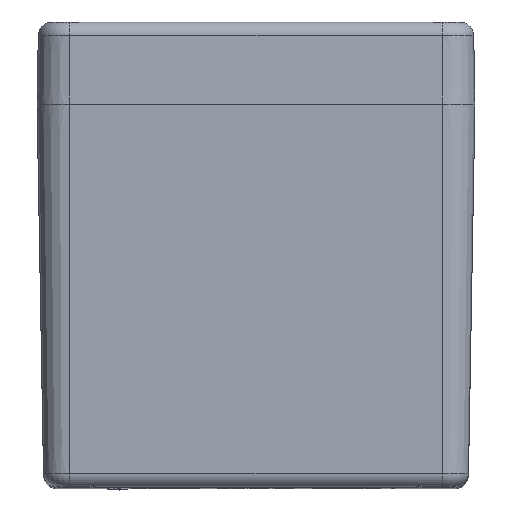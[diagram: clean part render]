
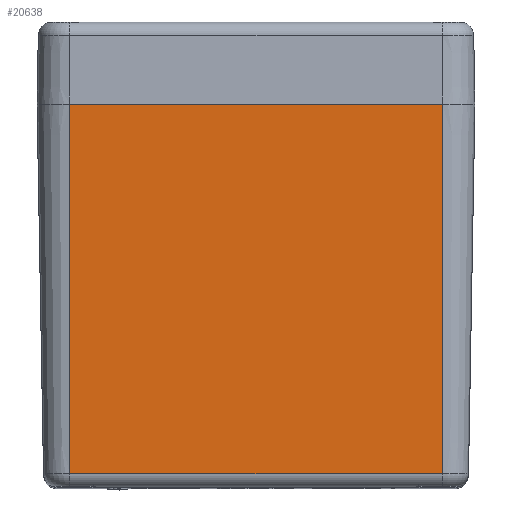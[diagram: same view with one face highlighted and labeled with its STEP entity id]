
A CAD part, top view. The second image highlights one B-rep face of the part: STEP entity #20638.
In plain terms, the highlighted planar face has unit normal (0, -0.018, 1).
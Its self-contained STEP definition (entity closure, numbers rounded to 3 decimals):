
#73 = CARTESIAN_POINT ( 'NONE',  ( -34., 0., 80. ) ) ;
#316 = CARTESIAN_POINT ( 'NONE',  ( 34., -67.544, 78.821 ) ) ;
#331 = CARTESIAN_POINT ( 'NONE',  ( -34., 0., 80. ) ) ;
#1621 = VERTEX_POINT ( 'NONE', #316 ) ;
#2334 = DIRECTION ( 'NONE',  ( 0., -0.017, 1. ) ) ;
#4482 = LINE ( 'NONE', #18375, #28518 ) ;
#5194 = DIRECTION ( 'NONE',  ( 1., 0., 0. ) ) ;
#5269 = EDGE_CURVE ( 'NONE', #23691, #27701, #9554, .T. ) ;
#5312 = ORIENTED_EDGE ( 'NONE', *, *, #5269, .F. ) ;
#6623 = EDGE_LOOP ( 'NONE', ( #14979, #11589, #8421, #5312 ) ) ;
#8421 = ORIENTED_EDGE ( 'NONE', *, *, #17261, .T. ) ;
#8520 = CARTESIAN_POINT ( 'NONE',  ( -34., -67.544, 78.821 ) ) ;
#9455 = LINE ( 'NONE', #331, #16721 ) ;
#9554 = LINE ( 'NONE', #16419, #20547 ) ;
#10085 = EDGE_CURVE ( 'NONE', #14459, #1621, #4482, .T. ) ;
#11589 = ORIENTED_EDGE ( 'NONE', *, *, #10085, .T. ) ;
#11659 = EDGE_CURVE ( 'NONE', #14459, #23691, #9455, .T. ) ;
#11971 = VECTOR ( 'NONE', #13711, 1000. ) ;
#13178 = DIRECTION ( 'NONE',  ( 0., 1., 0.017 ) ) ;
#13660 = FACE_OUTER_BOUND ( 'NONE', #6623, .T. ) ;
#13711 = DIRECTION ( 'NONE',  ( 0., 1., 0.017 ) ) ;
#14459 = VERTEX_POINT ( 'NONE', #8520 ) ;
#14979 = ORIENTED_EDGE ( 'NONE', *, *, #11659, .F. ) ;
#15517 = PLANE ( 'NONE',  #16709 ) ;
#16419 = CARTESIAN_POINT ( 'NONE',  ( -34., 0., 80. ) ) ;
#16709 = AXIS2_PLACEMENT_3D ( 'NONE', #73, #2334, #17776 ) ;
#16721 = VECTOR ( 'NONE', #13178, 1000. ) ;
#17261 = EDGE_CURVE ( 'NONE', #1621, #27701, #17868, .T. ) ;
#17776 = DIRECTION ( 'NONE',  ( 0., -1., -0.017 ) ) ;
#17868 = LINE ( 'NONE', #20250, #11971 ) ;
#18375 = CARTESIAN_POINT ( 'NONE',  ( 34., -67.544, 78.821 ) ) ;
#19459 = CARTESIAN_POINT ( 'NONE',  ( 34., 0., 80. ) ) ;
#20250 = CARTESIAN_POINT ( 'NONE',  ( 34., 0., 80. ) ) ;
#20547 = VECTOR ( 'NONE', #25109, 1000. ) ;
#20638 = ADVANCED_FACE ( 'NONE', ( #13660 ), #15517, .T. ) ;
#20966 = CARTESIAN_POINT ( 'NONE',  ( -34., 0., 80. ) ) ;
#23691 = VERTEX_POINT ( 'NONE', #20966 ) ;
#25109 = DIRECTION ( 'NONE',  ( 1., 0., 0. ) ) ;
#27701 = VERTEX_POINT ( 'NONE', #19459 ) ;
#28518 = VECTOR ( 'NONE', #5194, 1000. ) ;
